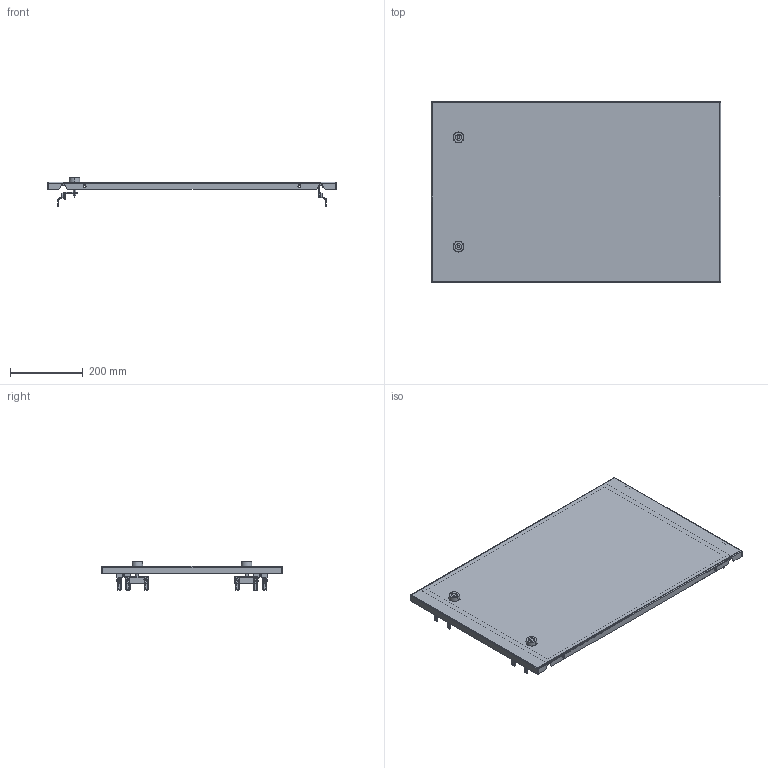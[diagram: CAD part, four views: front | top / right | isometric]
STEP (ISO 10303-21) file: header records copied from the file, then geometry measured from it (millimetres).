
FILE_DESCRIPTION(('CAx-IF Rec.Pracs.---Model Styling and Organization---1.2---2011-12-15','CAx-IF Rec.Pracs.---Geometric and Assembly Validation Properties---4.1---2014-06-16','CAx-IF Rec.Pracs.---PMI Polyline Presentation---2.0---2013-05-24'),'2;1');
FILE_NAME('R5CPMEM8500.stp','2021-05-06T03:56:58+03:00',(''),(''),'STEP Interface 4.4 by CT CoreTechnologie','3D_Evolution4.4 by CT CoreTechnologie','');
FILE_SCHEMA(('AUTOMOTIVE_DESIGN { 1 0 10303 214 1 1 1 1 }'));
Length unit declared in the file: millimetre
Products named in the file (17): R5CPMEM8500; RB.0116.00.00.2_-00; AC00C485; MS737-1-1(1); MS737-1-1 Z_ ªàëâ; MS737-1-1 stop_fixed; M6 x 16-DIN 7991 ISR_thread; RB.0687.00.00.1; MS737-1-1(2); RB.0556.00.00.3 ÑÁ_-18; AC00C266; Ì6õ12-A5100231_thread; AC00C061_AC00C061; RB.0556.00.01.1_-18; PF 7x14 R5PKEB_0500x0800; Ì6õ12-A5100231_straight; AC00C745
Assembly tree (39 placements, depth 3):
  R5CPMEM8500
    RB.0116.00.00.2_-00  x2
    AC00C485  x8
    MS737-1-1(1)
      MS737-1-1 Z_ ªàëâ
      MS737-1-1 stop_fixed
    M6 x 16-DIN 7991 ISR_thread  x8
    RB.0687.00.00.1  x2
    MS737-1-1(2)
      MS737-1-1 Z_ ªàëâ
      MS737-1-1 stop_fixed
    RB.0556.00.00.3 ÑÁ_-18
      AC00C266  x2
      Ì6õ12-A5100231_thread  x2
      AC00C061_AC00C061  x3
      RB.0556.00.01.1_-18
      PF 7x14 R5PKEB_0500x0800
      Ì6õ12-A5100231_straight
    AC00C745  x2
Bounding box: 794 x 495 x 77.95 mm (x, y, z)
Surface area: 1023163.1 mm2 (no closed solid volume)
Topology: 0 solids, 60 shells, 2328 faces, 6108 edges, 3882 vertices
Faces by surface type: bspline 868, cylinder 764, plane 696
Entity records: 35233 total; most frequent: CARTESIAN_POINT 11612, ORIENTED_EDGE 4958, DIRECTION 4604, EDGE_CURVE 2479, AXIS2_PLACEMENT_3D 1670, VERTEX_POINT 1602, VECTOR 1264, LINE 1264
